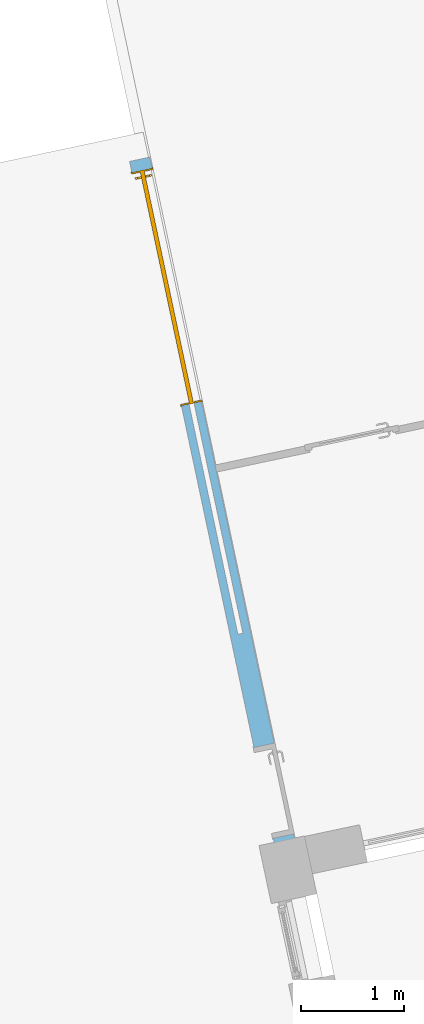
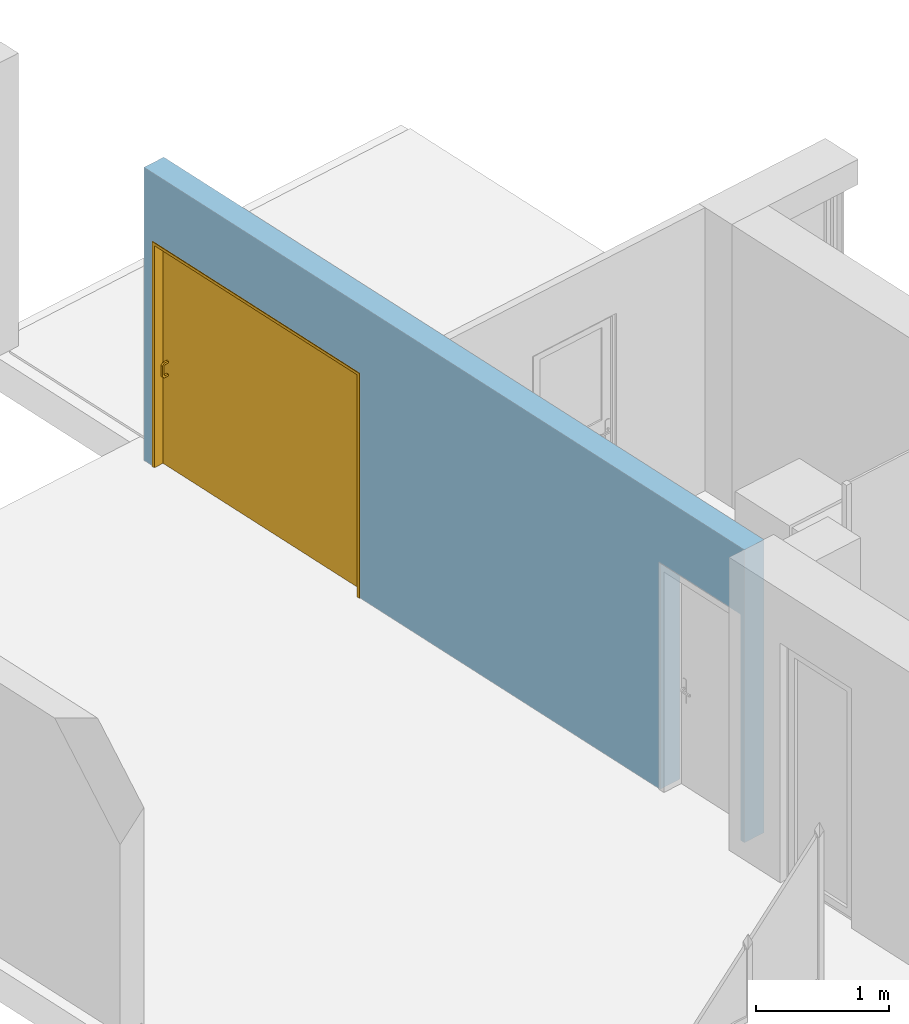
# One storey, part 7 of 17: 1 door, 5 openings, plus 1 element that does not belong to this part.
"""IFC2X3 building model written with IfcOpenShell, lengths in centimetres."""

from ifc_helpers import new_model, entity, si_unit, converted_unit, derived_unit, direction, frame, frame_2d, origin, place, context, subcontext, project, spatial, rectangle, extrude, faceted_brep, source, transform, mapped, material, layer, layer_set, layer_usage, type_object, type_shapes, element, fill, save


model = new_model("IFC2X3")

# Units and contexts
model_context = context("Model", 3, precision=0.001, world=origin(), true_north=direction((6.12303176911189e-17, 1.0)))
body_context = subcontext(model_context, "Body", "Model", "MODEL_VIEW")
ifc_project = project(units=[si_unit("LENGTHUNIT", "METRE", prefix="CENTI"), si_unit("AREAUNIT", "SQUARE_METRE"), si_unit("VOLUMEUNIT", "CUBIC_METRE"), converted_unit("PLANEANGLEUNIT", "DEGREE", entity("IfcRatioMeasure", 0.0174532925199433), si_unit("PLANEANGLEUNIT", "RADIAN"), dimensions=[0, 0, 0, 0, 0, 0, 0]), si_unit("MASSUNIT", "GRAM", prefix="KILO"), derived_unit("MASSDENSITYUNIT", [(si_unit("MASSUNIT", "GRAM", prefix="KILO"), 1), (si_unit("LENGTHUNIT", "METRE"), -3)]), derived_unit("IONCONCENTRATIONUNIT", [(si_unit("MASSUNIT", "GRAM", prefix="KILO"), 1), (si_unit("LENGTHUNIT", "METRE"), -3)]), derived_unit("MOMENTOFINERTIAUNIT", [(si_unit("LENGTHUNIT", "METRE"), 4)]), si_unit("TIMEUNIT", "SECOND"), si_unit("FREQUENCYUNIT", "HERTZ"), si_unit("THERMODYNAMICTEMPERATUREUNIT", "DEGREE_CELSIUS"), derived_unit("THERMALTRANSMITTANCEUNIT", [(si_unit("MASSUNIT", "GRAM", prefix="KILO"), 1), (si_unit("THERMODYNAMICTEMPERATUREUNIT", "KELVIN"), -1), (si_unit("TIMEUNIT", "SECOND"), -3)]), derived_unit("THERMALCONDUCTANCEUNIT", [(si_unit("MASSUNIT", "GRAM", prefix="KILO"), 1), (si_unit("THERMODYNAMICTEMPERATUREUNIT", "KELVIN"), -1), (si_unit("TIMEUNIT", "SECOND"), -3), (si_unit("LENGTHUNIT", "METRE"), 1)]), derived_unit("VOLUMETRICFLOWRATEUNIT", [(si_unit("LENGTHUNIT", "METRE"), 3), (si_unit("TIMEUNIT", "SECOND"), -1)]), derived_unit("MASSFLOWRATEUNIT", [(si_unit("MASSUNIT", "GRAM", prefix="KILO"), 1), (si_unit("TIMEUNIT", "SECOND"), -1)]), derived_unit("ROTATIONALFREQUENCYUNIT", [(si_unit("TIMEUNIT", "SECOND"), -1)]), si_unit("ELECTRICCURRENTUNIT", "AMPERE"), si_unit("ELECTRICVOLTAGEUNIT", "VOLT"), si_unit("POWERUNIT", "WATT"), si_unit("FORCEUNIT", "NEWTON", prefix="KILO"), si_unit("ILLUMINANCEUNIT", "LUX"), si_unit("LUMINOUSFLUXUNIT", "LUMEN"), si_unit("LUMINOUSINTENSITYUNIT", "CANDELA"), derived_unit("USERDEFINED", [(si_unit("MASSUNIT", "GRAM", prefix="KILO"), -1), (si_unit("LENGTHUNIT", "METRE"), -2), (si_unit("TIMEUNIT", "SECOND"), 3), (si_unit("LUMINOUSFLUXUNIT", "LUMEN"), 1)]), derived_unit("USERDEFINED", [(si_unit("MASSUNIT", "GRAM", prefix="KILO"), 1), (si_unit("TIMEUNIT", "SECOND"), -3), (si_unit("LENGTHUNIT", "METRE"), 3), (si_unit("ELECTRICCURRENTUNIT", "AMPERE"), -2)]), derived_unit("SOUNDPOWERUNIT", [(si_unit("MASSUNIT", "GRAM", prefix="KILO"), 1), (si_unit("TIMEUNIT", "SECOND"), -3), (si_unit("LENGTHUNIT", "METRE"), 2)]), derived_unit("SOUNDPRESSUREUNIT", [(si_unit("MASSUNIT", "GRAM", prefix="KILO"), 1), (si_unit("LENGTHUNIT", "METRE"), -1), (si_unit("TIMEUNIT", "SECOND"), -2)]), derived_unit("LINEARVELOCITYUNIT", [(si_unit("LENGTHUNIT", "METRE"), 1), (si_unit("TIMEUNIT", "SECOND"), -1)]), si_unit("PRESSUREUNIT", "PASCAL"), derived_unit("USERDEFINED", [(si_unit("MASSUNIT", "GRAM", prefix="KILO"), 1), (si_unit("LENGTHUNIT", "METRE"), -2), (si_unit("TIMEUNIT", "SECOND"), -2)]), derived_unit("LINEARFORCEUNIT", [(si_unit("MASSUNIT", "GRAM", prefix="KILO"), 1), (si_unit("TIMEUNIT", "SECOND"), -2)]), derived_unit("PLANARFORCEUNIT", [(si_unit("MASSUNIT", "GRAM", prefix="KILO"), 1), (si_unit("LENGTHUNIT", "METRE"), -1), (si_unit("TIMEUNIT", "SECOND"), -2)]), derived_unit("SPECIFICHEATCAPACITYUNIT", [(si_unit("THERMODYNAMICTEMPERATUREUNIT", "KELVIN"), -1), (si_unit("LENGTHUNIT", "METRE"), 2), (si_unit("TIMEUNIT", "SECOND"), -2)]), derived_unit("HEATINGVALUEUNIT", [(si_unit("LENGTHUNIT", "METRE"), 2), (si_unit("TIMEUNIT", "SECOND"), -2)]), derived_unit("VAPORPERMEABILITYUNIT", [(si_unit("LENGTHUNIT", "METRE"), -1), (si_unit("TIMEUNIT", "SECOND"), 1)]), derived_unit("DYNAMICVISCOSITYUNIT", [(si_unit("MASSUNIT", "GRAM", prefix="KILO"), 1), (si_unit("TIMEUNIT", "SECOND"), -1), (si_unit("LENGTHUNIT", "METRE"), -1)]), derived_unit("THERMALEXPANSIONCOEFFICIENTUNIT", [(si_unit("THERMODYNAMICTEMPERATUREUNIT", "KELVIN"), -1)]), derived_unit("MODULUSOFELASTICITYUNIT", [(si_unit("MASSUNIT", "GRAM", prefix="KILO"), 1), (si_unit("LENGTHUNIT", "METRE"), -1), (si_unit("TIMEUNIT", "SECOND"), -2)]), derived_unit("ISOTHERMALMOISTURECAPACITYUNIT", [(si_unit("LENGTHUNIT", "METRE"), 3), (si_unit("MASSUNIT", "GRAM", prefix="KILO"), -1)]), derived_unit("MOISTUREDIFFUSIVITYUNIT", [(si_unit("TIMEUNIT", "SECOND"), -1), (si_unit("LENGTHUNIT", "METRE"), 2)])], contexts=[model_context])

# Site, building, storey
site_placement = place(None, frame((14083.8920177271, -6853.25409548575, 6900.0), z_axis=(0.0, 0.0, 1.0), x_axis=(0.978188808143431, 0.207717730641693, 0.0)))
site = spatial("IfcSite", under=ifc_project, at=site_placement, Name="Surface", CompositionType="ELEMENT")
building_placement = place(site_placement, origin())
building = spatial("IfcBuilding", under=site, at=building_placement, CompositionType="ELEMENT")
storey_placement = place(building_placement, origin())
storey = spatial("IfcBuildingStorey", under=building, at=storey_placement, Name="_Rez de chaussée Séjour", CompositionType="ELEMENT", Elevation=2.07727662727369e-10)

# Wall, openings, door
ifc_material_1 = material(Name="Béton, précoulé")
ifc_layer = layer(ifc_material_1, 20.0)
ifc_layer_set = layer_set([ifc_layer], Name="Mur de base:*BETON 20")
ifc_layer_usage = layer_usage(ifc_layer_set, "AXIS2", "NEGATIVE", 10.0)
wall_type = type_object("IfcWallType", Name="Mur de base:*BETON 20", PredefinedType="STANDARD", material=ifc_layer_set)
wall_placement = place(storey_placement, frame((-6264.81321908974, 15502.6324526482, 0.0), z_axis=(0.0, 0.0, 1.0), x_axis=(0.0, -1.0, 0.0)))
wall = element("IfcWallStandardCase", 1, at=wall_placement, inside=storey, type_object=wall_type, material=ifc_layer_usage, Name="Mur de base:*BETON 20", ObjectType="Mur de base:*BETON 20", context=body_context, shape_type="SweptSolid", body=[
    extrude(rectangle(XDim=674.965107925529, YDim=20.0000000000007, at=frame_2d((337.482553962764, -6.21724893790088e-14), x_axis=(-1.0, 0.0))), origin(), (0.0, 0.0, 1.0), 268.999999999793),
])
opening_1_placement = place(wall_placement, origin())
element("IfcOpeningElement", 2, at=opening_1_placement, cuts=wall, Name="Mur de base:*BETON 20", ObjectType="Opening", context=body_context, shape_type="SweptSolid", body=[
    extrude(rectangle(XDim=220.0, YDim=109.999999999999, at=frame_2d((-1.73372427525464e-12, 7.105427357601e-15), x_axis=(0.0, 1.0))), frame((-119.534892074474, -127.4, 110.0), z_axis=(0.0, 1.0, 0.0), x_axis=(-1.0, 0.0, 0.0)), (0.0, 0.0, 1.0), 304.8),
])
opening_2_placement = place(wall_placement, origin())
element("IfcOpeningElement", 3, at=opening_2_placement, cuts=wall, Name="Mur de base:*BETON 20", ObjectType="Opening", context=body_context, shape_type="SweptSolid", body=[
    extrude(rectangle(XDim=220.0, YDim=49.999999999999, at=frame_2d((0.0, -1.73372427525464e-12), x_axis=(1.0, 0.0))), frame((-199.53489207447, -33.0, 110.0), z_axis=(0.0, 1.0, 0.0), x_axis=(0.0, 0.0, -1.0)), (0.0, 0.0, 1.0), 57.9999999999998),
])
opening_3_placement = place(wall_placement, frame((-147.034892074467, 20.0, -7.9639104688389)))
element("IfcOpeningElement", 4, at=opening_3_placement, cuts=wall, Name="Mur de base:*BETON 20", ObjectType="Opening", context=body_context, shape_type="Brep", body=[
    faceted_brep([(-38.5000000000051, 305.0, 7.96391046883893), (-38.5000000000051, 305.0, 6.46391046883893), (-100.0, 305.0, 0.0), (-100.0, 305.0, 227.963910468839), (-40.5000000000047, 305.0, 227.963910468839), (-40.5000000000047, 305.0, 7.96391046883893), (0.0, 5.0, 7.96391046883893), (0.0, 5.0, 227.963910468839), (-27.5000000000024, 5.0, 227.963910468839), (-27.5000000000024, 5.0, 7.96391046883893), (0.0, 305.0, 7.96391046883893), (-27.5000000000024, 0.0, 7.96391046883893), (-34.5000000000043, 0.0, 7.96391046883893), (-34.5000000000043, 4.0, 7.96391046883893), (-40.5000000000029, 4.0, 7.96391046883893), (-40.5000000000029, 5.0, 7.96391046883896), (-38.5000000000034, 5.0, 7.96391046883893), (-40.5000000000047, 306.0, 7.96391046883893), (-34.500000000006, 306.0, 7.96391046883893), (-34.500000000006, 310.0, 7.96391046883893), (-27.5000000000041, 310.0, 7.96391046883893), (-27.5000000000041, 305.0, 7.96391046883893), (0.0, 305.0, 227.963910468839), (-27.5000000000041, 305.0, 227.963910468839), (-100.0, 5.0, 0.0), (-100.0, 5.0, 227.963910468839), (-38.5000000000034, 5.0, 6.46391046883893), (-34.5000000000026, 310.0, 232.96391046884), (-27.5000000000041, 310.0, 232.96391046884), (-34.5000000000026, 306.0, 228.963910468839), (-34.5000000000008, 4.0, 228.963910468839), (-34.5000000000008, 0.0, 232.96391046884), (-40.5000000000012, 306.0, 228.963910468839), (-40.5000000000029, 5.0, 227.963910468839), (-40.5000000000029, 4.0, 228.963910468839), (-27.5000000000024, 0.0, 232.96391046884)], [[[0, 1, 2, 3, 4, 5]], [[6, 7, 8, 9]], [[10, 6, 9, 11, 12, 13, 14, 15, 16, 0, 5, 17, 18, 19, 20, 21]], [[10, 22, 7, 6]], [[7, 22, 23, 8]], [[3, 2, 24, 25]], [[2, 1, 26, 24]], [[1, 0, 16, 26]], [[20, 19, 27, 28]], [[19, 18, 29, 30, 13, 12, 31, 27]], [[18, 17, 32, 29]], [[17, 5, 4, 33, 15, 14, 34, 32]], [[21, 20, 28, 35, 11, 9, 8, 23]], [[28, 27, 31, 35]], [[30, 29, 32, 34]], [[31, 12, 11, 35]], [[13, 30, 34, 14]], [[3, 25, 33, 4]], [[25, 24, 26, 16, 15, 33]], [[22, 10, 21, 23]]]),
])
opening_4_placement = place(wall_placement, frame((470.0, -25.0, 0.0), z_axis=(0.0, 0.0, 1.0), x_axis=(0.0, 1.0, 0.0)))
opening_4 = element("IfcOpeningElement", 5, at=opening_4_placement, cuts=wall, Name="Mur de base:*BETON 20", ObjectType="Opening", context=body_context, shape_type="Brep", body=[
    faceted_brep([(50.0, 228.0, 205.5), (50.0, 459.0, 205.5), (0.0, 459.0, 205.5), (0.0, 228.0, 205.5), (22.5000000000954, 228.0, 205.5), (22.5000000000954, 0.0, 205.5), (27.5000000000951, 0.0, 205.5), (27.5000000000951, 228.0, 205.5), (50.0, 228.0, 0.0), (27.5000000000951, 228.0, 0.0), (27.5000000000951, 0.0, 0.0), (22.5000000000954, 0.0, 0.0), (22.5000000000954, 228.0, 0.0), (0.0, 228.0, 0.0), (0.0, 459.0, 0.0), (50.0, 459.0, 0.0)], [[[0, 1, 2, 3, 4, 5, 6, 7]], [[8, 9, 10, 11, 12, 13, 14, 15]], [[1, 0, 8, 15]], [[2, 1, 15, 14]], [[3, 2, 14, 13]], [[4, 3, 13, 12]], [[5, 4, 12, 11]], [[6, 5, 11, 10]], [[7, 6, 10, 9]], [[0, 7, 9, 8]]]),
])
opening_5_placement = place(wall_placement, frame((580.459974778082, -10.0, 0.0)))
element("IfcOpeningElement", 6, at=opening_5_placement, cuts=wall, Name="*Porte_alveolaire:Pp 83 x 204:1", ObjectType="Opening", context=body_context, shape_type="SweptSolid", body=[
    extrude(rectangle(XDim=207.5, YDim=89.9999999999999, at=frame_2d((103.75, 45.0), x_axis=(1.0, 0.0))), frame((0.0, 0.0, 0.0), z_axis=(0.0, 1.0, 0.0), x_axis=(0.0, 0.0, 1.0)), (0.0, 0.0, 1.0), 20.0),
])
ifc_material_2 = material(Name="<Unnamed>")
door_style = type_object("IfcDoorStyle", Name="*Coulissante - Encastrée:PC 230 x 204 (galandage)", ConstructionType="NOTDEFINED", OperationType="SLIDING_TO_LEFT", ParameterTakesPrecedence=False, Sizeable=False, material=ifc_material_2)
shared_shape = source(origin(), body_context, "Body", "Brep", [
    faceted_brep([(452.963922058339, 27.0, 94.9316602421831), (453.4, 27.0, 95.1000000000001), (453.4, 27.0, 96.9), (452.963922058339, 27.0, 97.068339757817), (452.5, 27.0, 97.1255985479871), (452.036077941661, 27.0, 97.068339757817), (451.6, 27.0, 96.9), (451.6, 27.0, 95.1000000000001), (452.036077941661, 27.0, 94.931660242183), (452.5, 27.0, 94.874401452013), (452.963922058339, 27.0, 82.9316602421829), (453.4, 27.0, 83.1), (453.4, 27.0, 84.8999999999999), (452.963922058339, 27.0, 85.0683397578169), (452.5, 27.0, 85.125598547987), (452.036077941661, 27.0, 85.0683397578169), (451.6, 27.0, 84.8999999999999), (451.6, 27.0, 83.1), (452.036077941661, 27.0, 82.9316602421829), (452.5, 27.0, 82.8744014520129), (451.6, 30.1272077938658, 84.8999999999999), (451.6, 31.1000000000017, 85.8727922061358), (451.6, 31.1000000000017, 94.1272077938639), (451.6, 30.1272077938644, 95.1000000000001), (451.6, 30.8727922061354, 96.9), (451.6, 32.9000000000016, 94.8727922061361), (451.6, 32.9000000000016, 85.1272077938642), (451.6, 30.8727922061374, 83.1), (452.036077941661, 30.9425208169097, 97.068339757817), (452.5, 30.9662381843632, 97.1255985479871), (452.963922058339, 30.9425208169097, 97.068339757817), (453.4, 30.8727922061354, 96.9), (453.4, 30.1272077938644, 95.1000000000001), (453.4, 31.1000000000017, 94.1272077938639), (453.4, 31.1000000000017, 85.8727922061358), (453.4, 30.1272077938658, 84.8999999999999), (453.4, 30.8727922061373, 83.1), (453.4, 32.9000000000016, 85.1272077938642), (453.4, 32.9000000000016, 94.8727922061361), (452.963922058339, 30.0574791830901, 94.9316602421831), (452.5, 30.0337618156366, 94.874401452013), (452.036077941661, 30.0574791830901, 94.931660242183), (452.036077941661, 33.0683397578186, 94.9425208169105), (452.5, 33.1255985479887, 94.9662381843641), (452.963922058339, 33.0683397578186, 94.9425208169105), (452.963922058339, 30.9316602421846, 94.0574791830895), (452.5, 30.8744014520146, 94.0337618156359), (452.036077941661, 30.9316602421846, 94.0574791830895), (452.036077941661, 33.0683397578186, 85.0574791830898), (452.5, 33.1255985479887, 85.0337618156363), (452.963922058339, 33.0683397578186, 85.0574791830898), (452.963922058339, 30.9316602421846, 85.9425208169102), (452.5, 30.8744014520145, 85.9662381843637), (452.036077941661, 30.9316602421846, 85.9425208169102), (452.036077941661, 30.9425208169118, 82.9316602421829), (452.5, 30.9662381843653, 82.8744014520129), (452.963922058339, 30.9425208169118, 82.9316602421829), (452.963922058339, 30.0574791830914, 85.0683397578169), (452.5, 30.0337618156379, 85.125598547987), (452.036077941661, 30.0574791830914, 85.0683397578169)], [[[0, 1, 2, 3, 4, 5, 6, 7, 8, 9]], [[10, 11, 12, 13, 14, 15, 16, 17, 18, 19]], [[16, 20, 21, 22, 23, 7, 6, 24, 25, 26, 27, 17]], [[5, 28, 24, 6]], [[4, 29, 28, 5]], [[4, 3, 30, 29]], [[2, 31, 30, 3]], [[1, 32, 33, 34, 35, 12, 11, 36, 37, 38, 31, 2]], [[1, 0, 39, 32]], [[40, 39, 0, 9]], [[7, 23, 41, 8]], [[40, 9, 8, 41]], [[24, 28, 42, 25]], [[29, 43, 42, 28]], [[30, 44, 43, 29]], [[30, 31, 38, 44]], [[32, 39, 45, 33]], [[46, 45, 39, 40]], [[41, 23, 22, 47]], [[47, 46, 40, 41]], [[42, 48, 26, 25]], [[43, 49, 48, 42]], [[44, 50, 49, 43]], [[44, 38, 37, 50]], [[45, 51, 34, 33]], [[51, 45, 46, 52]], [[22, 21, 53, 47]], [[52, 46, 47, 53]], [[26, 48, 54, 27]], [[49, 55, 54, 48]], [[50, 56, 55, 49]], [[50, 37, 36, 56]], [[34, 51, 57, 35]], [[58, 57, 51, 52]], [[53, 21, 20, 59]], [[59, 58, 52, 53]], [[27, 54, 18, 17]], [[19, 18, 54, 55]], [[36, 11, 10, 56]], [[19, 55, 56, 10]], [[57, 13, 12, 35]], [[13, 57, 58, 14]], [[59, 20, 16, 15]], [[15, 14, 58, 59]]]),
    faceted_brep([(452.5, 23.0, 97.1255985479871), (452.963922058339, 23.0, 97.068339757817), (453.4, 23.0, 96.9), (453.4, 23.0, 95.1000000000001), (452.963922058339, 23.0, 94.931660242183), (452.5, 23.0, 94.874401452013), (452.036077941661, 23.0, 94.931660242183), (451.6, 23.0, 95.1000000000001), (451.6, 23.0, 96.9), (452.036077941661, 23.0, 97.068339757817), (452.963922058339, 23.0, 85.0683397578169), (453.4, 23.0, 84.8999999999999), (453.4, 23.0, 83.1), (452.963922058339, 23.0, 82.9316602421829), (452.5, 23.0, 82.8744014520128), (452.036077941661, 23.0, 82.9316602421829), (451.6, 23.0, 83.1), (451.6, 23.0, 84.8999999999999), (452.036077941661, 23.0, 85.0683397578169), (452.5, 23.0, 85.125598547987), (452.963922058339, 19.0574791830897, 97.068339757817), (453.4, 19.1272077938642, 96.9), (452.5, 19.0337618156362, 97.1255985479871), (452.036077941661, 19.0574791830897, 97.0683397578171), (451.6, 19.1272077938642, 96.9), (451.6, 19.8727922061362, 95.1000000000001), (451.6, 18.9000000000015, 94.1272077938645), (451.6, 18.9000000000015, 85.8727922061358), (451.6, 19.8727922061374, 84.8999999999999), (451.6, 19.1272077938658, 83.1), (451.6, 17.1000000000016, 85.1272077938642), (451.6, 17.1000000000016, 94.8727922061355), (452.036077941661, 19.9425208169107, 94.931660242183), (452.5, 19.9662381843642, 94.874401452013), (453.4, 19.8727922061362, 95.1000000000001), (452.963922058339, 19.9425208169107, 94.931660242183), (453.4, 19.8727922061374, 84.8999999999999), (453.4, 18.9000000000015, 85.8727922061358), (453.4, 18.9000000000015, 94.1272077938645), (453.4, 17.1000000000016, 94.8727922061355), (453.4, 17.1000000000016, 85.1272077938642), (453.4, 19.1272077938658, 83.1), (452.963922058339, 16.9316602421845, 94.9425208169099), (452.5, 16.8744014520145, 94.9662381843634), (452.036077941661, 16.9316602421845, 94.9425208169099), (452.036077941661, 19.0683397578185, 94.0574791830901), (452.5, 19.1255985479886, 94.0337618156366), (452.963922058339, 19.0683397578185, 94.0574791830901), (452.963922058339, 16.9316602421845, 85.0574791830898), (452.5, 16.8744014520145, 85.0337618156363), (452.036077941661, 16.9316602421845, 85.0574791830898), (452.036077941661, 19.0683397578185, 85.9425208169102), (452.5, 19.1255985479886, 85.9662381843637), (452.963922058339, 19.0683397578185, 85.9425208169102), (452.963922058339, 19.0574791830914, 82.9316602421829), (452.5, 19.0337618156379, 82.8744014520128), (452.036077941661, 19.0574791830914, 82.9316602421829), (452.036077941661, 19.9425208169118, 85.0683397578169), (452.5, 19.9662381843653, 85.125598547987), (452.963922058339, 19.9425208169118, 85.0683397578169)], [[[0, 1, 2, 3, 4, 5, 6, 7, 8, 9]], [[10, 11, 12, 13, 14, 15, 16, 17, 18, 19]], [[1, 20, 21, 2]], [[0, 22, 20, 1]], [[0, 9, 23, 22]], [[8, 24, 23, 9]], [[7, 25, 26, 27, 28, 17, 16, 29, 30, 31, 24, 8]], [[7, 6, 32, 25]], [[33, 32, 6, 5]], [[3, 34, 35, 4]], [[33, 5, 4, 35]], [[11, 36, 37, 38, 34, 3, 2, 21, 39, 40, 41, 12]], [[20, 42, 39, 21]], [[22, 43, 42, 20]], [[23, 44, 43, 22]], [[23, 24, 31, 44]], [[25, 32, 45, 26]], [[46, 45, 32, 33]], [[35, 34, 38, 47]], [[47, 46, 33, 35]], [[42, 48, 40, 39]], [[43, 49, 48, 42]], [[44, 50, 49, 43]], [[44, 31, 30, 50]], [[45, 51, 27, 26]], [[51, 45, 46, 52]], [[38, 37, 53, 47]], [[52, 46, 47, 53]], [[48, 54, 41, 40]], [[49, 55, 54, 48]], [[50, 56, 55, 49]], [[50, 30, 29, 56]], [[27, 51, 57, 28]], [[58, 57, 51, 52]], [[53, 37, 36, 59]], [[59, 58, 52, 53]], [[41, 54, 13, 12]], [[14, 13, 54, 55]], [[29, 16, 15, 56]], [[14, 55, 56, 15]], [[57, 18, 17, 28]], [[18, 57, 58, 19]], [[59, 36, 11, 10]], [[10, 19, 58, 59]]]),
    faceted_brep([(457.5, 23.0, 204.0), (457.5, 27.0, 204.0), (228.0, 27.0, 204.0), (228.0, 23.0, 204.0), (457.5, 23.0, 0.0), (228.0, 23.0, 0.0), (228.0, 27.0, 0.0), (457.5, 27.0, 0.0)], [[[0, 1, 2, 3]], [[4, 5, 6, 7]], [[1, 0, 4, 7]], [[2, 1, 7, 6]], [[3, 2, 6, 5]], [[0, 3, 5, 4]]]),
    faceted_brep([(228.0, 35.0, 0.0), (227.0, 35.0, 0.0), (227.0, 35.8000000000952, 0.0), (229.5, 35.8000000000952, 0.0), (229.5, 27.5, 0.0), (228.0, 27.5, 0.0), (228.0, 35.0, 205.5), (459.0, 35.0, 205.5), (459.0, 35.0, 0.0), (460.0, 35.0, 0.0), (460.0, 35.0, 206.5), (227.0, 35.0, 206.5), (227.0, 35.8000000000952, 206.5), (460.0, 35.8000000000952, 206.5), (460.0, 35.8000000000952, 0.0), (457.5, 35.8000000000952, 0.0), (457.5, 35.8000000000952, 204.0), (229.5, 35.8000000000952, 204.0), (229.5, 27.5, 204.0), (228.0, 27.5, 204.0), (228.0, 15.0, 0.0), (228.0, 15.0, 205.5), (228.0, 22.5, 204.0), (228.0, 22.5, 0.0), (227.0, 14.2, 0.0), (229.5, 14.2, 0.0), (229.5, 14.2, 204.0), (457.5, 14.2, 204.0), (457.5, 14.2, 0.0), (460.0, 14.2, 0.0), (460.0, 14.2, 206.5), (227.0, 14.2, 206.5), (227.0, 15.0, 0.0), (227.0, 15.0, 206.5), (460.0, 15.0, 206.5), (460.0, 15.0, 0.0), (459.0, 15.0, 0.0), (459.0, 15.0, 205.5), (229.5, 22.5, 204.0), (229.5, 22.5, 0.0)], [[[0, 1, 2, 3, 4, 5]], [[1, 0, 6, 7, 8, 9, 10, 11]], [[2, 1, 11, 12]], [[3, 2, 12, 13, 14, 15, 16, 17]], [[3, 17, 18, 4]], [[18, 19, 5, 4]], [[20, 21, 6, 0, 5, 19, 22, 23]], [[24, 25, 26, 27, 28, 29, 30, 31]], [[32, 24, 31, 33]], [[20, 32, 33, 34, 35, 36, 37, 21]], [[22, 38, 39, 23]], [[8, 7, 37, 36]], [[9, 8, 36, 35, 29, 28, 15, 14]], [[10, 9, 14, 13]], [[16, 15, 28, 27]], [[30, 29, 35, 34]], [[6, 21, 37, 7]], [[11, 10, 13, 12]], [[17, 16, 27, 26, 38, 22, 19, 18]], [[31, 30, 34, 33]], [[26, 25, 39, 38]], [[25, 24, 32, 20, 23, 39]]]),
])
type_shapes(door_style, [shared_shape])
door_placement = place(opening_4_placement, frame((50.0, 0.0, 0.0), z_axis=(0.0, 0.0, 1.0), x_axis=(0.0, 1.0, 0.0)))
door = element("IfcDoor", 7, at=door_placement, inside=storey, type_object=door_style, material=ifc_material_2, Name="*Coulissante - Encastrée:PC 230 x 204 (galandage)", ObjectType="*Coulissante - Encastrée:PC 230 x 204 (galandage)", OverallHeight=206.5, OverallWidth=460.0, context=body_context, shape_type="MappedRepresentation", body=[
    mapped(shared_shape, transform((0.0, 0.0, 0.0), scale=1.0)),
])
fill(opening_4, door)

save(model, "model.ifc")
